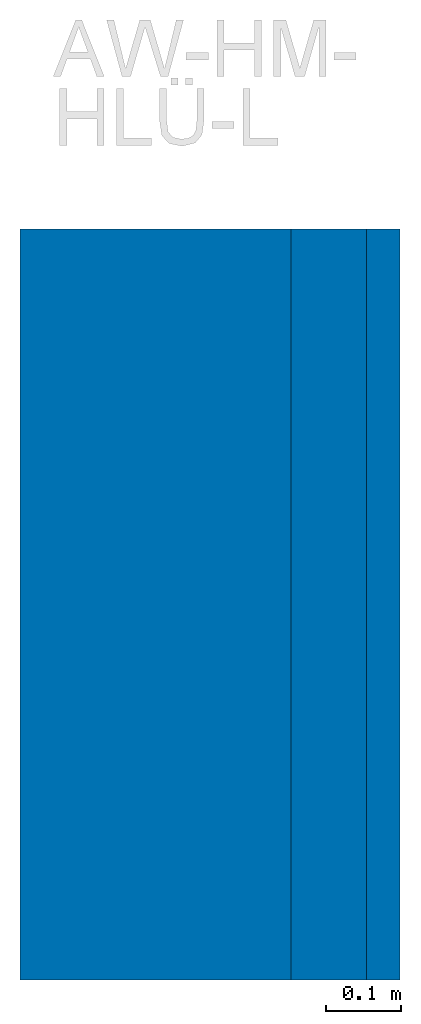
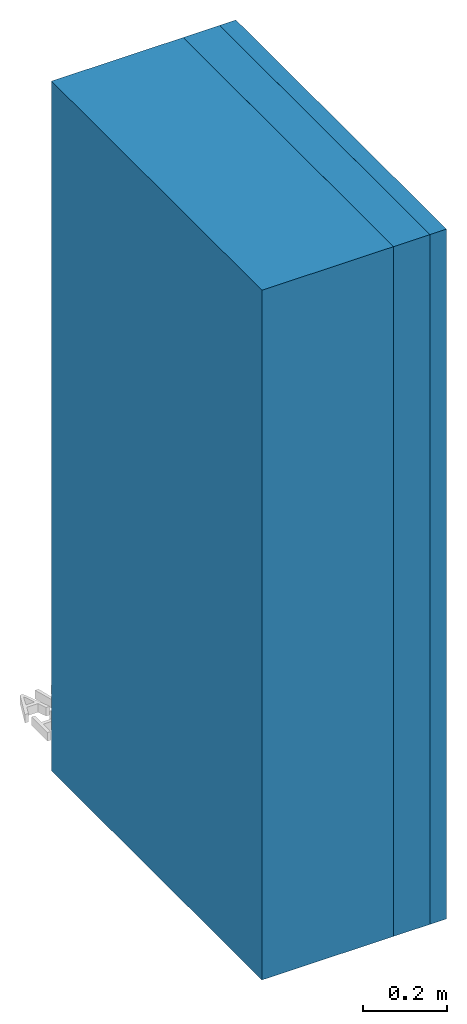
# Not in any storey, part 1 of 2: 3 walls, 1 element without a shape of its own.
"""IFC4 model written with IfcOpenShell, lengths in metres."""

from ifc_helpers import new_model, entity, si_unit, converted_unit, derived_unit, direction, frame, origin, place, context, subcontext, project, spatial, indexed_curve, outline, extrude, material, constituent, constituent_set, type_object, element, aggregate, save


model = new_model("IFC4")

# Units and contexts
model_context = context("Model", 3, precision=1e-05, world=origin(), true_north=direction((6.123031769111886e-17, 1.0)))
body_context = subcontext(model_context, "Body", "Model", "MODEL_VIEW")
ifc_project = project(units=[si_unit("LENGTHUNIT", "METRE"), si_unit("AREAUNIT", "SQUARE_METRE"), si_unit("VOLUMEUNIT", "CUBIC_METRE"), converted_unit("PLANEANGLEUNIT", "DEGREE", entity("IfcRatioMeasure", 0.017453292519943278), si_unit("PLANEANGLEUNIT", "RADIAN"), dimensions=[0, 0, 0, 0, 0, 0, 0]), si_unit("MASSUNIT", "GRAM", prefix="KILO"), derived_unit("MASSDENSITYUNIT", [(si_unit("MASSUNIT", "GRAM", prefix="KILO"), 1), (si_unit("LENGTHUNIT", "METRE"), -3)]), derived_unit("IONCONCENTRATIONUNIT", [(si_unit("MASSUNIT", "GRAM", prefix="KILO"), 1), (si_unit("LENGTHUNIT", "METRE"), -3)]), derived_unit("MOMENTOFINERTIAUNIT", [(si_unit("LENGTHUNIT", "METRE"), 4)]), si_unit("TIMEUNIT", "SECOND"), si_unit("FREQUENCYUNIT", "HERTZ"), si_unit("THERMODYNAMICTEMPERATUREUNIT", "DEGREE_CELSIUS"), derived_unit("THERMALTRANSMITTANCEUNIT", [(si_unit("MASSUNIT", "GRAM", prefix="KILO"), 1), (si_unit("THERMODYNAMICTEMPERATUREUNIT", "KELVIN"), -1), (si_unit("TIMEUNIT", "SECOND"), -3)]), derived_unit("THERMALCONDUCTANCEUNIT", [(si_unit("MASSUNIT", "GRAM", prefix="KILO"), 1), (si_unit("THERMODYNAMICTEMPERATUREUNIT", "KELVIN"), -1), (si_unit("TIMEUNIT", "SECOND"), -3), (si_unit("LENGTHUNIT", "METRE"), 1)]), derived_unit("VOLUMETRICFLOWRATEUNIT", [(si_unit("LENGTHUNIT", "METRE"), 3), (si_unit("TIMEUNIT", "SECOND"), -1)]), derived_unit("MASSFLOWRATEUNIT", [(si_unit("MASSUNIT", "GRAM", prefix="KILO"), 1), (si_unit("TIMEUNIT", "SECOND"), -1)]), derived_unit("ROTATIONALFREQUENCYUNIT", [(si_unit("TIMEUNIT", "SECOND"), -1)]), si_unit("ELECTRICCURRENTUNIT", "AMPERE"), si_unit("ELECTRICVOLTAGEUNIT", "VOLT"), si_unit("POWERUNIT", "WATT"), si_unit("FORCEUNIT", "NEWTON", prefix="KILO"), si_unit("ILLUMINANCEUNIT", "LUX"), si_unit("LUMINOUSFLUXUNIT", "LUMEN"), si_unit("LUMINOUSINTENSITYUNIT", "CANDELA"), derived_unit("USERDEFINED", [(si_unit("MASSUNIT", "GRAM", prefix="KILO"), -1), (si_unit("LENGTHUNIT", "METRE"), -2), (si_unit("TIMEUNIT", "SECOND"), 3), (si_unit("LUMINOUSFLUXUNIT", "LUMEN"), 1)]), derived_unit("USERDEFINED", [(si_unit("MASSUNIT", "GRAM", prefix="KILO"), 1), (si_unit("TIMEUNIT", "SECOND"), -3), (si_unit("LENGTHUNIT", "METRE"), 3), (si_unit("ELECTRICCURRENTUNIT", "AMPERE"), -2)]), derived_unit("SOUNDPOWERUNIT", [(si_unit("MASSUNIT", "GRAM", prefix="KILO"), 1), (si_unit("TIMEUNIT", "SECOND"), -3), (si_unit("LENGTHUNIT", "METRE"), 2)]), derived_unit("SOUNDPRESSUREUNIT", [(si_unit("MASSUNIT", "GRAM", prefix="KILO"), 1), (si_unit("LENGTHUNIT", "METRE"), -1), (si_unit("TIMEUNIT", "SECOND"), -2)]), derived_unit("LINEARVELOCITYUNIT", [(si_unit("LENGTHUNIT", "METRE"), 1), (si_unit("TIMEUNIT", "SECOND"), -1)]), si_unit("PRESSUREUNIT", "PASCAL"), derived_unit("USERDEFINED", [(si_unit("MASSUNIT", "GRAM", prefix="KILO"), 1), (si_unit("LENGTHUNIT", "METRE"), -2), (si_unit("TIMEUNIT", "SECOND"), -2)]), derived_unit("LINEARFORCEUNIT", [(si_unit("MASSUNIT", "GRAM", prefix="KILO"), 1), (si_unit("TIMEUNIT", "SECOND"), -2)]), derived_unit("PLANARFORCEUNIT", [(si_unit("MASSUNIT", "GRAM", prefix="KILO"), 1), (si_unit("LENGTHUNIT", "METRE"), -1), (si_unit("TIMEUNIT", "SECOND"), -2)]), derived_unit("SPECIFICHEATCAPACITYUNIT", [(si_unit("THERMODYNAMICTEMPERATUREUNIT", "KELVIN"), -1), (si_unit("LENGTHUNIT", "METRE"), 2), (si_unit("TIMEUNIT", "SECOND"), -2)]), derived_unit("HEATINGVALUEUNIT", [(si_unit("LENGTHUNIT", "METRE"), 2), (si_unit("TIMEUNIT", "SECOND"), -2)]), derived_unit("VAPORPERMEABILITYUNIT", [(si_unit("LENGTHUNIT", "METRE"), -1), (si_unit("TIMEUNIT", "SECOND"), 1)]), derived_unit("DYNAMICVISCOSITYUNIT", [(si_unit("MASSUNIT", "GRAM", prefix="KILO"), 1), (si_unit("TIMEUNIT", "SECOND"), -1), (si_unit("LENGTHUNIT", "METRE"), -1)]), derived_unit("THERMALEXPANSIONCOEFFICIENTUNIT", [(si_unit("THERMODYNAMICTEMPERATUREUNIT", "KELVIN"), -1)]), derived_unit("MODULUSOFELASTICITYUNIT", [(si_unit("MASSUNIT", "GRAM", prefix="KILO"), 1), (si_unit("LENGTHUNIT", "METRE"), -1), (si_unit("TIMEUNIT", "SECOND"), -2)]), derived_unit("ISOTHERMALMOISTURECAPACITYUNIT", [(si_unit("LENGTHUNIT", "METRE"), 3), (si_unit("MASSUNIT", "GRAM", prefix="KILO"), -1)]), derived_unit("MOISTUREDIFFUSIVITYUNIT", [(si_unit("TIMEUNIT", "SECOND"), -1), (si_unit("LENGTHUNIT", "METRE"), 2)])], contexts=[model_context])

# Site
site_placement = place(None, origin())
site = spatial("IfcSite", under=ifc_project, at=site_placement, Name="Default", CompositionType="ELEMENT")

# Assembly, walls
assembly_placement = place(site_placement, origin())
assembly = element("IfcElementAssembly", 1, at=assembly_placement, inside=site, Name="Wände Baugruppe:fbimSg_Wall_bc_WOD_vis_at_NTR_natuREbuilt_AW-HM-HLÜ-L_GK3_51cm", ObjectType="Wände Baugruppe:fbimSg_Wall_bc_WOD_vis_at_NTR_natuREbuilt_AW-HM-HLÜ-L_GK3_51cm", AssemblyPlace="NOTDEFINED", PredefinedType="USERDEFINED")
ifc_material_1 = material(Name="fbim_12400515_AT_025_Vollholz_Bretter_Fichte")
ifc_constituent_1 = constituent(ifc_material_1, Name="fbim_12400515_AT_025_Vollholz_Bretter_Fichte")
ifc_material_2 = material(Name="fbim_12400520_AT_001_Vollholz_Lattung_Fichte")
ifc_constituent_2 = constituent(ifc_material_2, Name="fbim_12400520_AT_001_Vollholz_Lattung_Fichte")
ifc_constituent_3 = constituent(ifc_material_1, Name="fbim_12400515_AT_025_Vollholz_Bretter_Fichte (2)")
ifc_material_3 = material(Name="fbim_14100500_at_NTR_Zellulose-Einblasdaemmung")
ifc_constituent_4 = constituent(ifc_material_3, Name="fbim_14100500_at_NTR_Zellulose-Einblasdaemmung")
ifc_constituent_set_1 = constituent_set(constituents=[ifc_constituent_1, ifc_constituent_2, ifc_constituent_3, ifc_constituent_4], Name="Basiswand:fbimSg_Wall_dp_WOD_vis_at_NTR_natuREbuilt_AWMh-I_GK3_a_4cm")
wall_type_1 = type_object("IfcWallType", Name="Basiswand:fbimSg_Wall_dp_WOD_vis_at_NTR_natuREbuilt_AWMh-I_GK3_a_4cm", PredefinedType="STANDARD", material=ifc_constituent_set_1)
wall_1_placement = place(assembly_placement, frame((0.19930602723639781, 47.65974307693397, 0.0), z_axis=(0.0, 0.0, 1.0), x_axis=(0.0, -1.0, 0.0)))
wall_1 = element("IfcWall", 2, at=wall_1_placement, type_object=wall_type_1, material=ifc_constituent_set_1, Name="Basiswand:fbimSg_Wall_dp_WOD_vis_at_NTR_natuREbuilt_AWMh-I_GK3_a_4cm", ObjectType="Basiswand:fbimSg_Wall_dp_WOD_vis_at_NTR_natuREbuilt_AWMh-I_GK3_a_4cm", PredefinedType="NOTDEFINED", context=body_context, shape_type="SweptSolid", body=[
    extrude(outline(indexed_curve([(-0.1400000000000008, -0.49999999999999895), (0.13999999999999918, -0.49999999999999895), (0.1400000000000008, 0.49999999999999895), (-0.13999999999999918, 0.49999999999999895), (-0.1400000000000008, -0.49999999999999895)], self_intersect=False)), frame((0.49999999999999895, 0.04049999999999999, 0.0), z_axis=(0.0, 0.0, 1.0), x_axis=(0.0, -1.0, 0.0)), (0.0, 0.0, 1.0), 1.9999999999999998),
    extrude(outline(indexed_curve([(-0.49999999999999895, -0.01100000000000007), (0.49999999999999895, -0.01100000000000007), (0.49999999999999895, 0.01100000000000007), (-0.49999999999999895, 0.01100000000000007), (-0.49999999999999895, -0.01100000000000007)], self_intersect=False)), frame((0.49999999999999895, -0.11050000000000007, 0.0)), (0.0, 0.0, 1.0), 1.9999999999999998),
    extrude(outline(indexed_curve([(-0.49999999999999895, -0.01999999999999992), (0.49999999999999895, -0.01999999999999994), (0.49999999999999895, 0.019999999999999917), (-0.49999999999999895, 0.019999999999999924), (-0.49999999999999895, -0.01999999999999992)], self_intersect=False)), frame((0.49999999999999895, -0.14150000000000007, 0.0)), (0.0, 0.0, 1.0), 1.9999999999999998),
    extrude(outline(indexed_curve([(-0.009500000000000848, -0.49999999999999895), (0.009499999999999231, -0.49999999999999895), (0.009500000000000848, 0.49999999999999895), (-0.009499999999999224, 0.49999999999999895), (-0.009500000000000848, -0.49999999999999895)], self_intersect=False)), frame((0.49999999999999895, -0.171, 0.0), z_axis=(0.0, 0.0, 1.0), x_axis=(0.0, 1.0, 0.0)), (0.0, 0.0, 1.0), 1.9999999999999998),
])
ifc_material_4 = material(Name="fbim_12402020_AT_001_Brettschichtholz")
wall_type_2 = type_object("IfcWallType", Name="Basiswand:fbimSg_Wall_sb_WOD_vis_at_NTR_natuREbuilt_AWMh-I_GK3_k_28cm", PredefinedType="STANDARD")
wall_2_placement = place(assembly_placement, frame((0.4298060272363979, 47.65974307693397, 0.0), z_axis=(0.0, 0.0, 1.0), x_axis=(0.0, -1.0, 0.0)))
wall_2 = element("IfcWall", 3, at=wall_2_placement, type_object=wall_type_2, material=ifc_material_4, Name="Basiswand:fbimSg_Wall_sb_WOD_vis_at_NTR_natuREbuilt_AWMh-I_GK3_k_28cm", ObjectType="Basiswand:fbimSg_Wall_sb_WOD_vis_at_NTR_natuREbuilt_AWMh-I_GK3_k_28cm", PredefinedType="NOTDEFINED", context=body_context, shape_type="SweptSolid", body=[
    extrude(outline(indexed_curve([(0.9999999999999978, 0.05), (-8.121503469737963e-17, 0.05), (8.121503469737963e-17, -0.05), (0.999999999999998, -0.05), (0.9999999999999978, 0.05)], self_intersect=False)), origin(), (0.0, 0.0, 1.0), 1.9999999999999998),
])
ifc_material_5 = material(Name="fbim_16200505_at_NTR_Lehm_Grundputz", Category="Verschiedene")
ifc_constituent_5 = constituent(ifc_material_5, Name="fbim_16200505_at_NTR_Lehm_Grundputz", Category="Verschiedene")
ifc_material_6 = material(Name="fbim_16200510_at_NTR_Lehm_Duennputz", Category="Verschiedene")
ifc_constituent_6 = constituent(ifc_material_6, Name="fbim_16200510_at_NTR_Lehm_Duennputz", Category="Verschiedene")
ifc_constituent_set_2 = constituent_set(constituents=[ifc_constituent_5, ifc_constituent_6], Name="Basiswand:fbimSg_Wall_dp_PLA_vis_at_NTR_natuREbuilt_AWMh-I_GK3_i_Lehm")
wall_type_3 = type_object("IfcWallType", Name="Basiswand:fbimSg_Wall_dp_PLA_vis_at_NTR_natuREbuilt_AWMh-I_GK3_i_Lehm", PredefinedType="STANDARD", material=ifc_constituent_set_2)
wall_3_placement = place(assembly_placement, frame((0.5023060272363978, 47.65974307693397, 0.0), z_axis=(0.0, 0.0, 1.0), x_axis=(0.0, -1.0, 0.0)))
wall_3 = element("IfcWall", 4, at=wall_3_placement, type_object=wall_type_3, material=ifc_constituent_set_2, Name="Basiswand:fbimSg_Wall_dp_PLA_vis_at_NTR_natuREbuilt_AWMh-I_GK3_i_Lehm", ObjectType="Basiswand:fbimSg_Wall_dp_PLA_vis_at_NTR_natuREbuilt_AWMh-I_GK3_i_Lehm", PredefinedType="NOTDEFINED", context=body_context, shape_type="SweptSolid", body=[
    extrude(outline(indexed_curve([(-0.0025000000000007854, -0.49999999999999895), (0.002499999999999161, -0.49999999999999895), (0.0025000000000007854, 0.49999999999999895), (-0.002499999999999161, 0.49999999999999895), (-0.0025000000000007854, -0.49999999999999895)], self_intersect=False)), frame((0.49999999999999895, 0.02000000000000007, 0.0), z_axis=(0.0, 0.0, 1.0), x_axis=(0.0, -1.0, 0.0)), (0.0, 0.0, 1.0), 1.9999999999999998),
    extrude(outline(indexed_curve([(-0.020000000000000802, -0.49999999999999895), (0.019999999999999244, -0.49999999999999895), (0.020000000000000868, 0.49999999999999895), (-0.019999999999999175, 0.49999999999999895), (-0.020000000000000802, -0.49999999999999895)], self_intersect=False)), frame((0.49999999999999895, -0.002499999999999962, 0.0), z_axis=(0.0, 0.0, 1.0), x_axis=(0.0, 1.0, 0.0)), (0.0, 0.0, 1.0), 1.9999999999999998),
])
aggregate(assembly, [wall_1, wall_2, wall_3])

save(model, "model.ifc")
